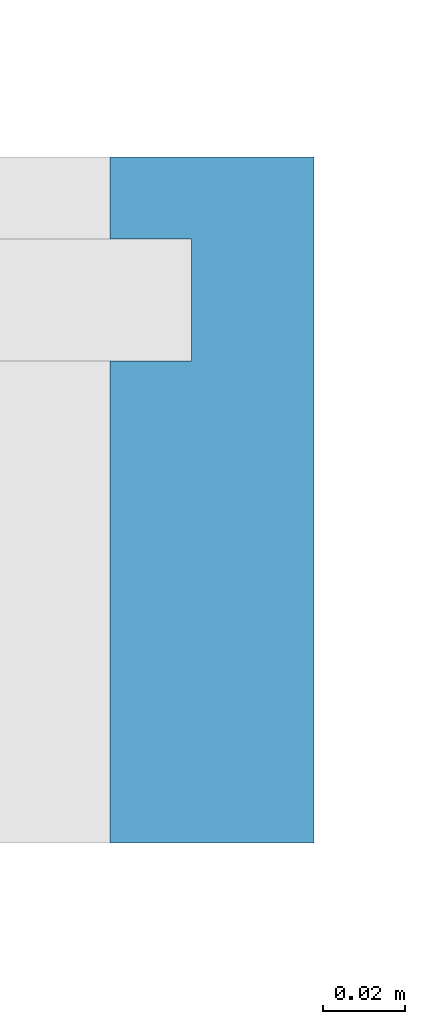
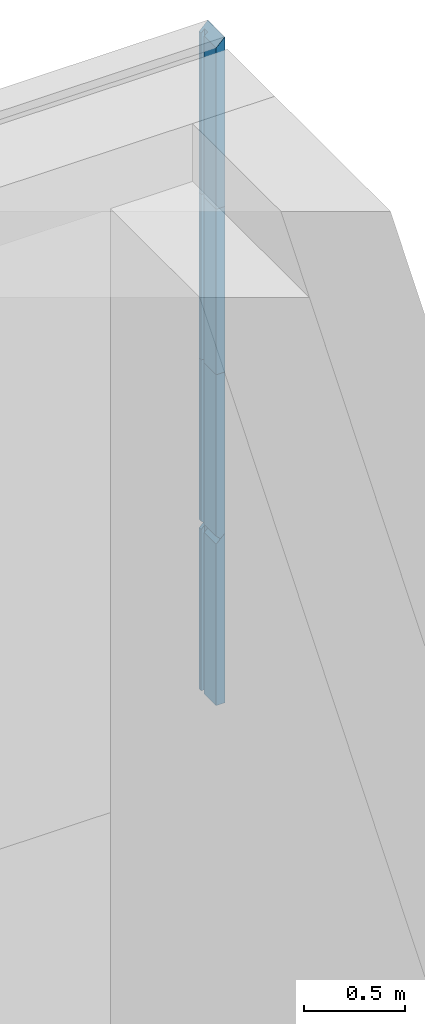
# One storey, part 66 of 105: 4 building element parts, 2 elements without a shape of their own.
"""IFC4 building model written with IfcOpenShell, lengths in millimetres."""

from ifc_helpers import new_model, entity, si_unit, converted_unit, derived_unit, direction, frame, origin_with_axes, place, context, subcontext, project, spatial, triangles, material, element, aggregate, save


model = new_model("IFC4")

# Units and contexts
model_context = context("Model", 3, precision=1e-05, world=origin_with_axes(), true_north=direction((0.0, 1.0)))
body_context = subcontext(model_context, "Body", "Model", "MODEL_VIEW")
ifc_project = project(units=[si_unit("LENGTHUNIT", "METRE", prefix="MILLI"), si_unit("AREAUNIT", "SQUARE_METRE"), si_unit("VOLUMEUNIT", "CUBIC_METRE"), converted_unit("PLANEANGLEUNIT", "DEGREE", entity("IfcLengthMeasure", 0.017453), si_unit("PLANEANGLEUNIT", "RADIAN"), dimensions=[0, 0, 0, 0, 0, 0, 0]), si_unit("SOLIDANGLEUNIT", "STERADIAN"), si_unit("MASSUNIT", "GRAM"), si_unit("TIMEUNIT", "SECOND"), si_unit("THERMODYNAMICTEMPERATUREUNIT", "DEGREE_CELSIUS"), si_unit("LUMINOUSINTENSITYUNIT", "LUMEN"), si_unit("POWERUNIT", "WATT"), derived_unit("THERMALTRANSMITTANCEUNIT", [(si_unit("POWERUNIT", "WATT"), 1), (si_unit("THERMODYNAMICTEMPERATUREUNIT", "KELVIN"), -1), (si_unit("AREAUNIT", "SQUARE_METRE"), -1)])], contexts=[model_context])

# Site, building, storey
site_placement = place(None, origin_with_axes())
site = spatial("IfcSite", under=ifc_project, at=site_placement, Name="Default Site", CompositionType="ELEMENT")
building_placement = place(site_placement, origin_with_axes())
building = spatial("IfcBuilding", under=site, at=building_placement, Name="Default Building", CompositionType="ELEMENT")
storey_placement = place(building_placement, origin_with_axes())
storey = spatial("IfcBuildingStorey", under=building, at=storey_placement, Name="OG - Story", CompositionType="ELEMENT", Elevation=0.0)

# Curtain wall, building element part
curtain_wall_1_placement = place(storey_placement, origin_with_axes())
curtain_wall_1 = element("IfcCurtainWall", 1, at=curtain_wall_1_placement, inside=storey, Name="Fassade-004", PredefinedType="NOTDEFINED")
ifc_material = material(Name="Blech")
building_element_part_1_placement = place(curtain_wall_1_placement, frame((33014.549222, -4389.262838, 6000.0), z_axis=(0.0, 0.0, 1.0), x_axis=(1.0, 0.0, 0.0)))
building_element_part_1 = element("IfcBuildingElementPart", 2, at=building_element_part_1_placement, material=ifc_material, Name="Blech", PredefinedType="NOTDEFINED", context=body_context, shape_type="Tessellation", body=[
    triangles([(46761.842, 35.0, 3025.0), (46711.842, 35.0, 2975.0), (46711.842, 15.0, 2975.0), (46731.842, 15.0, 2995.0), (46731.842, -14.999, 2995.0), (46711.842, -132.999, 2975.0), (46761.842, -132.999, 3025.0), (46711.842, -14.999, 2975.0), (46731.842, -14.999, 2000.0), (46711.842, -14.999, 2000.0), (46711.842, -132.999, 2000.0), (46761.842, -132.999, 2000.0), (46761.842, 35.0, 2000.0), (46711.842, 35.0, 2000.0), (46711.842, 15.0, 2000.0), (46731.842, 15.0, 2000.0)], [[1, 2, 3], [1, 3, 4], [1, 4, 5], [1, 5, 6], [1, 6, 7], [8, 6, 5], [5, 9, 10], [5, 10, 8], [10, 11, 6], [10, 6, 8], [11, 12, 7], [11, 7, 6], [12, 13, 1], [12, 1, 7], [13, 14, 2], [13, 2, 1], [3, 2, 14], [3, 14, 15], [15, 16, 4], [15, 4, 3], [4, 16, 9], [4, 9, 5], [16, 9, 12], [16, 12, 13], [16, 13, 14], [16, 14, 15], [10, 11, 12], [10, 12, 9]], closed=False),
])
aggregate(curtain_wall_1, [building_element_part_1])

# Curtain wall, building element parts
curtain_wall_2_placement = place(storey_placement, origin_with_axes())
curtain_wall_2 = element("IfcCurtainWall", 3, at=curtain_wall_2_placement, inside=storey, Name="Fassade-004", PredefinedType="NOTDEFINED")
building_element_part_2_placement = place(curtain_wall_2_placement, frame((33014.549222, -4389.262838, 9000.0), z_axis=(0.0, 0.0, 1.0), x_axis=(1.0, 0.0, 0.0)))
building_element_part_2 = element("IfcBuildingElementPart", 4, at=building_element_part_2_placement, material=ifc_material, Name="Blech", PredefinedType="NOTDEFINED", context=body_context, shape_type="Tessellation", body=[
    triangles([(46731.842, 15.0, 1000.0), (46731.842, -14.999, 1000.0), (46761.842, -132.999, 1000.0), (46761.842, 35.0, 1000.0), (46711.842, 35.0, 1000.0), (46711.842, 15.0, 1000.0), (46711.842, -14.999, 1000.0), (46711.842, -132.999, 1000.0), (46731.842, -14.999, 5.0), (46711.842, -14.999, 25.0), (46711.842, -132.999, 25.0), (46761.842, -132.999, -24.999), (46761.842, 35.0, -24.999), (46711.842, 35.0, 25.0), (46711.842, 15.0, 25.0), (46731.842, 15.0, 5.0)], [[1, 2, 3], [1, 3, 4], [1, 4, 5], [1, 5, 6], [7, 8, 3], [7, 3, 2], [2, 9, 10], [2, 10, 7], [10, 11, 8], [10, 8, 7], [8, 11, 12], [8, 12, 3], [3, 12, 13], [3, 13, 4], [4, 13, 14], [4, 14, 5], [6, 5, 14], [6, 14, 15], [15, 16, 1], [15, 1, 6], [1, 16, 9], [1, 9, 2], [15, 16, 13], [13, 16, 9], [13, 9, 11], [11, 9, 10], [13, 11, 12], [15, 13, 14]], closed=False),
])
building_element_part_3_placement = place(curtain_wall_2_placement, frame((33014.549222, -4389.262838, 9000.0), z_axis=(0.0, 0.0, 1.0), x_axis=(1.0, 0.0, 0.0)))
building_element_part_3 = element("IfcBuildingElementPart", 5, at=building_element_part_3_placement, material=ifc_material, Name="Blech", PredefinedType="NOTDEFINED", context=body_context, shape_type="Tessellation", body=[
    triangles([(46731.842, 15.0, 2000.0), (46731.842, -14.999, 2000.0), (46761.842, -132.999, 2000.0), (46761.842, 35.0, 2000.0), (46711.842, 35.0, 2000.0), (46711.842, 15.0, 2000.0), (46711.842, -14.999, 2000.0), (46711.842, -132.999, 2000.0), (46731.842, -14.999, 1000.0), (46711.842, -14.999, 1000.0), (46711.842, -132.999, 1000.0), (46761.842, -132.999, 1000.0), (46761.842, 35.0, 1000.0), (46711.842, 35.0, 1000.0), (46711.842, 15.0, 1000.0), (46731.842, 15.0, 1000.0)], [[1, 2, 3], [1, 3, 4], [1, 4, 5], [1, 5, 6], [7, 8, 3], [7, 3, 2], [2, 9, 10], [2, 10, 7], [10, 11, 8], [10, 8, 7], [11, 12, 3], [11, 3, 8], [12, 13, 4], [12, 4, 3], [13, 14, 5], [13, 5, 4], [6, 5, 14], [6, 14, 15], [15, 16, 1], [15, 1, 6], [1, 16, 9], [1, 9, 2], [16, 9, 12], [16, 12, 13], [16, 13, 14], [16, 14, 15], [10, 11, 12], [10, 12, 9]], closed=False),
])
building_element_part_4_placement = place(curtain_wall_2_placement, frame((33014.549222, -4389.262838, 9000.0), z_axis=(0.0, 0.0, 1.0), x_axis=(1.0, 0.0, 0.0)))
building_element_part_4 = element("IfcBuildingElementPart", 6, at=building_element_part_4_placement, material=ifc_material, Name="Blech", PredefinedType="NOTDEFINED", context=body_context, shape_type="Tessellation", body=[
    triangles([(46761.842, 35.0, 3025.0), (46711.842, 35.0, 2975.0), (46711.842, 15.0, 2975.0), (46731.842, 15.0, 2995.0), (46731.842, -14.999, 2995.0), (46711.842, -132.999, 2975.0), (46761.842, -132.999, 3025.0), (46711.842, -14.999, 2975.0), (46731.842, -14.999, 2000.0), (46711.842, -14.999, 2000.0), (46711.842, -132.999, 2000.0), (46761.842, -132.999, 2000.0), (46761.842, 35.0, 2000.0), (46711.842, 35.0, 2000.0), (46711.842, 15.0, 2000.0), (46731.842, 15.0, 2000.0)], [[1, 2, 3], [1, 3, 4], [1, 4, 5], [1, 5, 6], [1, 6, 7], [8, 6, 5], [5, 9, 10], [5, 10, 8], [10, 11, 6], [10, 6, 8], [11, 12, 7], [11, 7, 6], [12, 13, 1], [12, 1, 7], [13, 14, 2], [13, 2, 1], [3, 2, 14], [3, 14, 15], [15, 16, 4], [15, 4, 3], [4, 16, 9], [4, 9, 5], [16, 9, 12], [16, 12, 13], [16, 13, 14], [16, 14, 15], [10, 11, 12], [10, 12, 9]], closed=False),
])
aggregate(curtain_wall_2, [building_element_part_2, building_element_part_3, building_element_part_4])

save(model, "model.ifc")
